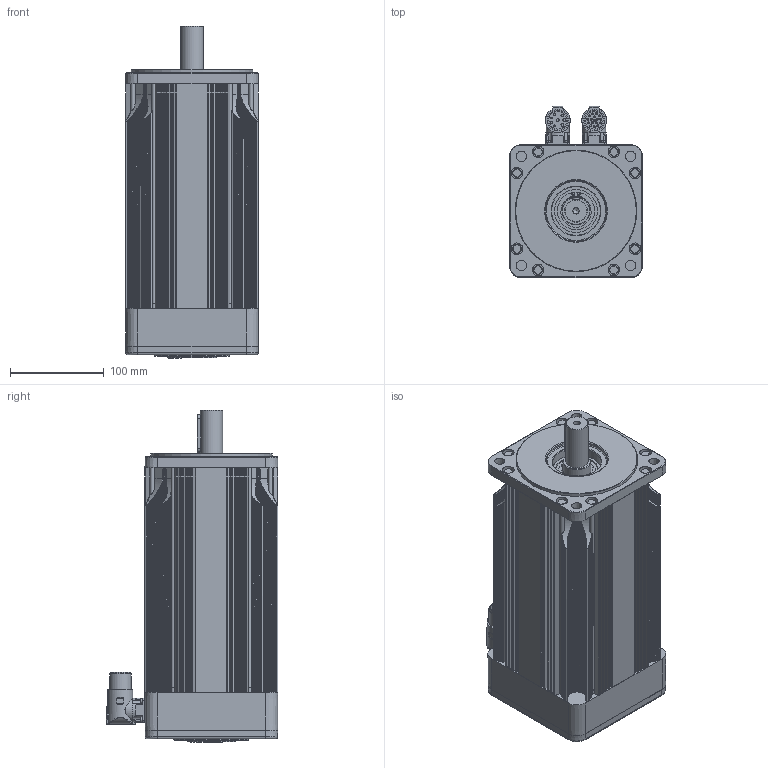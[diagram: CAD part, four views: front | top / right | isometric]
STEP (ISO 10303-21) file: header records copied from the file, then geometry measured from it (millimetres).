
FILE_DESCRIPTION( ( 'Unknown' ), '1' );
FILE_NAME( 'C:/Users/carpi/Desktop/step/Q00766_12.stp', 'Unknown', ( 'Unknown' ), ( 'Unknown' ), 'PSStep 14.0', 'Unknown', ' ' );
FILE_SCHEMA( ( 'AUTOMOTIVE_DESIGN { 1 0 10303 214 1 1 1 1 }' ) );
Length unit declared in the file: millimetre
Products named in the file (21): Assem1; CUSC_30_62_16_6206_ZZ; 003251006742; N09635_pr.golfare; A-Ela 30 P; CN M23 PAN-POT BEDC 110 4+4 pin 90°o SpTcR; CN M23 PAN-SEG AEDC 139 17 pin 90°o SpTcR; Vite a brugola testa cil 8,8 -  M 2,5 x 8; N11600; Vite a brugola testa cil 8,8 promoblock-  M4 x 12; LI-PIA   8x7 x 40; N49600_L_256; N01605; N25600_21
Assembly tree (37 placements, depth 2):
  Assem1
    CUSC_30_62_16_6206_ZZ
    CUSC_30_62_16_6206_ZZ
    CUSC_30_62_16_6206_ZZ
    CUSC_30_62_16_6206_ZZ
    CUSC_30_62_16_6206_ZZ
    CUSC_30_62_16_6206_ZZ
    CUSC_30_62_16_6206_ZZ
    CUSC_30_62_16_6206_ZZ
    003251006742
    N09635_pr.golfare
    A-Ela 30 P
    CN M23 PAN-POT BEDC 110 4+4 pin 90°o SpTcR
    CN M23 PAN-SEG AEDC 139 17 pin 90°o SpTcR
    Vite a brugola testa cil 8,8 -  M 2,5 x 8  x8
    N11600
    Vite a brugola testa cil 8,8 promoblock-  M4 x 12  x4
    LI-PIA   8x7 x 40
    N49600_L_256  x8
    N01605
    N25600_21
Bounding box: 142.19 x 183.65 x 355 mm (x, y, z)
Volume: 1767700.9 mm3; surface area: 706159.4 mm2
Topology: 37 solids, 38 shells, 2219 faces, 5628 edges, 3575 vertices
Faces by surface type: cylinder 958, plane 666, bspline 199, torus 185, cone 176, sphere 35
Full cylindrical faces by diameter (mm): 2 x23, 2.013 x8, 2.5 x8, 2.7 x8, 3 x4, 3.242 x3, 3.3 x6, 4 x4, 4.134 x4, 4.2 x8, 4.5 x4, 4.6 x8, 4.7 x8, 4.917 x4, 5 x8, 5.5 x8, 6.8 x1, 7 x4, 8 x5, 9.5 x8, 12.5 x8, 14 x1, 17 x2, 19.8 x2, 20 x3, 21.3 x2, 23 x2, 24 x1, 24.5 x2, 28.6 x3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
Entity records: 91570 total; most frequent: CARTESIAN_POINT 32566, DIRECTION 9527, ORIENTED_EDGE 9388, EDGE_CURVE 4694, AXIS2_PLACEMENT_3D 3912, VERTEX_POINT 3125, EDGE_LOOP 2378, FACE_OUTER_BOUND 2138
